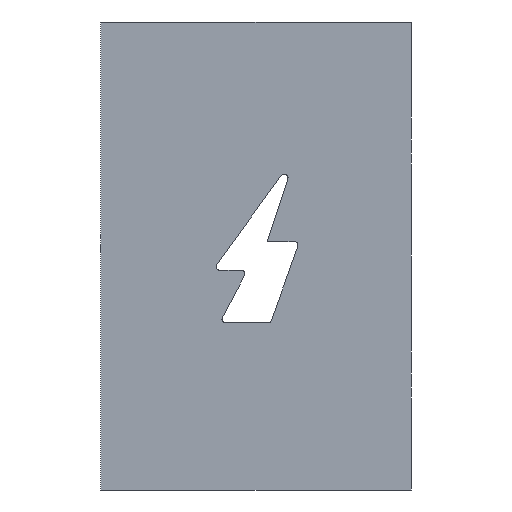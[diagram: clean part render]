
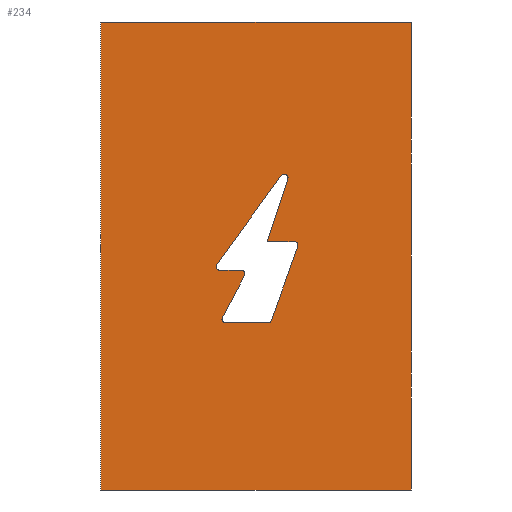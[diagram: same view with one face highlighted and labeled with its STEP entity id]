
A CAD part, left-side view. The second image highlights one B-rep face of the part: STEP entity #234.
In plain terms, the highlighted planar face has unit normal (-1, 0, 0).
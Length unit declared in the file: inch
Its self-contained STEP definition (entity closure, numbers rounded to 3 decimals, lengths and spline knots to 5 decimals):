
#1 = EDGE_CURVE ( 'NONE', #1059, #683, #455, .T. ) ;
#3 = FACE_OUTER_BOUND ( 'NONE', #768, .T. ) ;
#12 = LINE ( 'NONE', #979, #143 ) ;
#15 = ORIENTED_EDGE ( 'NONE', *, *, #155, .T. ) ;
#56 = CARTESIAN_POINT ( 'NONE',  ( -32.81156, 22.09023, 0. ) ) ;
#63 = ORIENTED_EDGE ( 'NONE', *, *, #978, .T. ) ;
#64 = CARTESIAN_POINT ( 'NONE',  ( -32.81156, 22.82408, -1.44263 ) ) ;
#66 = AXIS2_PLACEMENT_3D ( 'NONE', #1367, #337, #98 ) ;
#84 = VERTEX_POINT ( 'NONE', #546 ) ;
#95 = CARTESIAN_POINT ( 'NONE',  ( -32.81156, 23.2077, -1.63137 ) ) ;
#98 = DIRECTION ( 'NONE',  ( 0., 0., 1. ) ) ;
#108 = CARTESIAN_POINT ( 'NONE',  ( -32.81156, 23.00899, -1.95873 ) ) ;
#142 = ORIENTED_EDGE ( 'NONE', *, *, #364, .T. ) ;
#143 = VECTOR ( 'NONE', #1337, 39.37008 ) ;
#154 = DIRECTION ( 'NONE',  ( 0., 0., 1. ) ) ;
#155 = EDGE_CURVE ( 'NONE', #616, #1281, #599, .T. ) ;
#171 = CARTESIAN_POINT ( 'NONE',  ( -32.81156, 23.36777, -1.59168 ) ) ;
#172 = VECTOR ( 'NONE', #933, 39.37008 ) ;
#223 = EDGE_CURVE ( 'NONE', #914, #939, #372, .T. ) ;
#225 = LINE ( 'NONE', #56, #1334 ) ;
#231 = LINE ( 'NONE', #1555, #1095 ) ;
#234 = ADVANCED_FACE ( 'NONE', ( #3, #963 ), #1437, .T. ) ;
#262 = ORIENTED_EDGE ( 'NONE', *, *, #1, .T. ) ;
#265 = EDGE_CURVE ( 'NONE', #1413, #1532, #12, .T. ) ;
#294 = LINE ( 'NONE', #1514, #172 ) ;
#308 = ORIENTED_EDGE ( 'NONE', *, *, #579, .F. ) ;
#337 = DIRECTION ( 'NONE',  ( 1., 0., 0. ) ) ;
#350 = VERTEX_POINT ( 'NONE', #991 ) ;
#364 = EDGE_CURVE ( 'NONE', #1420, #1260, #524, .T. ) ;
#369 = CARTESIAN_POINT ( 'NONE',  ( -32.81156, 22.92487, -1.02438 ) ) ;
#371 = EDGE_CURVE ( 'NONE', #84, #1281, #1471, .T. ) ;
#372 = LINE ( 'NONE', #496, #1088 ) ;
#373 = CARTESIAN_POINT ( 'NONE',  ( -32.81156, 24.13045, -3.074 ) ) ;
#377 = DIRECTION ( 'NONE',  ( 0., -0.337, 0.941 ) ) ;
#380 = ORIENTED_EDGE ( 'NONE', *, *, #265, .F. ) ;
#384 = ORIENTED_EDGE ( 'NONE', *, *, #1112, .T. ) ;
#388 = VECTOR ( 'NONE', #1377, 39.37008 ) ;
#438 = AXIS2_PLACEMENT_3D ( 'NONE', #369, #1431, #700 ) ;
#448 = DIRECTION ( 'NONE',  ( 1., 0., 0. ) ) ;
#455 = CIRCLE ( 'NONE', #66, 0.025 ) ;
#468 = EDGE_CURVE ( 'NONE', #914, #1044, #225, .T. ) ;
#471 = CARTESIAN_POINT ( 'NONE',  ( -32.81156, 23.34754, -1.63137 ) ) ;
#476 = EDGE_CURVE ( 'NONE', #1059, #1413, #1527, .T. ) ;
#481 = DIRECTION ( 'NONE',  ( -1., 0., 0. ) ) ;
#496 = CARTESIAN_POINT ( 'NONE',  ( -32.81156, 0., 0. ) ) ;
#506 = DIRECTION ( 'NONE',  ( 0., 0., -1. ) ) ;
#510 = VECTOR ( 'NONE', #1341, 39.37008 ) ;
#514 = CARTESIAN_POINT ( 'NONE',  ( -32.81156, 22.8596, -1.44263 ) ) ;
#524 = CIRCLE ( 'NONE', #1012, 0.025 ) ;
#538 = EDGE_LOOP ( 'NONE', ( #1071, #1491, #661, #142, #1272, #1442, #380, #1277, #262, #308, #15, #1126, #63 ) ) ;
#539 = CARTESIAN_POINT ( 'NONE',  ( -32.81156, 23.03252, -1.9753 ) ) ;
#546 = CARTESIAN_POINT ( 'NONE',  ( -32.81156, 23.30867, -1.9753 ) ) ;
#549 = EDGE_CURVE ( 'NONE', #970, #931, #1558, .T. ) ;
#553 = CARTESIAN_POINT ( 'NONE',  ( -32.81156, 24.13045, 0. ) ) ;
#579 = EDGE_CURVE ( 'NONE', #616, #683, #231, .T. ) ;
#582 = CARTESIAN_POINT ( 'NONE',  ( -32.81156, 23.03589, -1.44263 ) ) ;
#596 = CARTESIAN_POINT ( 'NONE',  ( -32.81156, 22.83606, -1.47606 ) ) ;
#599 = CIRCLE ( 'NONE', #1477, 0.025 ) ;
#616 = VERTEX_POINT ( 'NONE', #108 ) ;
#635 = CARTESIAN_POINT ( 'NONE',  ( -32.81156, 24.13045, 0.25 ) ) ;
#661 = ORIENTED_EDGE ( 'NONE', *, *, #903, .F. ) ;
#683 = VERTEX_POINT ( 'NONE', #596 ) ;
#700 = DIRECTION ( 'NONE',  ( 0., 0., 1. ) ) ;
#704 = AXIS2_PLACEMENT_3D ( 'NONE', #851, #481, #846 ) ;
#717 = DIRECTION ( 'NONE',  ( 1., 0., 0. ) ) ;
#729 = AXIS2_PLACEMENT_3D ( 'NONE', #1258, #448, #802 ) ;
#730 = VECTOR ( 'NONE', #1476, 39.37008 ) ;
#744 = DIRECTION ( 'NONE',  ( 1., 0., 0. ) ) ;
#768 = EDGE_LOOP ( 'NONE', ( #1087, #1269, #384, #1167 ) ) ;
#781 = CARTESIAN_POINT ( 'NONE',  ( -32.81156, 23.18567, -1.66819 ) ) ;
#789 = VECTOR ( 'NONE', #506, 39.37008 ) ;
#802 = DIRECTION ( 'NONE',  ( 0., 0., 1. ) ) ;
#805 = DIRECTION ( 'NONE',  ( 0., 1., 0. ) ) ;
#846 = DIRECTION ( 'NONE',  ( 0., 0., 1. ) ) ;
#851 = CARTESIAN_POINT ( 'NONE',  ( -32.81156, 0., 0. ) ) ;
#855 = CARTESIAN_POINT ( 'NONE',  ( -32.81156, 23.16591, -1.63137 ) ) ;
#861 = DIRECTION ( 'NONE',  ( 0., 1., 0. ) ) ;
#863 = LINE ( 'NONE', #1353, #510 ) ;
#878 = LINE ( 'NONE', #855, #1342 ) ;
#883 = AXIS2_PLACEMENT_3D ( 'NONE', #1035, #915, #1519 ) ;
#884 = CARTESIAN_POINT ( 'NONE',  ( -32.81156, 22.90112, -1.03218 ) ) ;
#903 = EDGE_CURVE ( 'NONE', #1420, #931, #294, .T. ) ;
#914 = VERTEX_POINT ( 'NONE', #1033 ) ;
#915 = DIRECTION ( 'NONE',  ( -1., 0., 0. ) ) ;
#931 = VERTEX_POINT ( 'NONE', #95 ) ;
#933 = DIRECTION ( 'NONE',  ( 0., -1., 0. ) ) ;
#939 = VERTEX_POINT ( 'NONE', #553 ) ;
#940 = VERTEX_POINT ( 'NONE', #1064 ) ;
#963 = FACE_BOUND ( 'NONE', #538, .T. ) ;
#970 = VERTEX_POINT ( 'NONE', #781 ) ;
#978 = EDGE_CURVE ( 'NONE', #84, #940, #1254, .T. ) ;
#979 = CARTESIAN_POINT ( 'NONE',  ( -32.81156, 23.03589, -1.44263 ) ) ;
#987 = DIRECTION ( 'NONE',  ( 0., 0., 1. ) ) ;
#991 = CARTESIAN_POINT ( 'NONE',  ( -32.81156, 22.9451, -1.00969 ) ) ;
#998 = CARTESIAN_POINT ( 'NONE',  ( -32.81156, 23.34754, -1.60637 ) ) ;
#1002 = LINE ( 'NONE', #635, #789 ) ;
#1004 = CARTESIAN_POINT ( 'NONE',  ( -32.81156, 23.35046, -1.9753 ) ) ;
#1012 = AXIS2_PLACEMENT_3D ( 'NONE', #998, #744, #154 ) ;
#1016 = LINE ( 'NONE', #1130, #388 ) ;
#1033 = CARTESIAN_POINT ( 'NONE',  ( -32.81156, 22.09023, 0. ) ) ;
#1035 = CARTESIAN_POINT ( 'NONE',  ( -32.81156, 23.2077, -1.65637 ) ) ;
#1044 = VERTEX_POINT ( 'NONE', #1453 ) ;
#1058 = DIRECTION ( 'NONE',  ( 0., 0., -1. ) ) ;
#1059 = VERTEX_POINT ( 'NONE', #514 ) ;
#1064 = CARTESIAN_POINT ( 'NONE',  ( -32.81156, 23.3307, -1.93848 ) ) ;
#1071 = ORIENTED_EDGE ( 'NONE', *, *, #1078, .F. ) ;
#1078 = EDGE_CURVE ( 'NONE', #970, #940, #878, .T. ) ;
#1087 = ORIENTED_EDGE ( 'NONE', *, *, #468, .F. ) ;
#1088 = VECTOR ( 'NONE', #861, 39.37008 ) ;
#1094 = EDGE_CURVE ( 'NONE', #1490, #1044, #863, .T. ) ;
#1095 = VECTOR ( 'NONE', #377, 39.37008 ) ;
#1112 = EDGE_CURVE ( 'NONE', #939, #1490, #1002, .T. ) ;
#1126 = ORIENTED_EDGE ( 'NONE', *, *, #371, .F. ) ;
#1130 = CARTESIAN_POINT ( 'NONE',  ( -32.81156, 22.85135, -0.8806 ) ) ;
#1167 = ORIENTED_EDGE ( 'NONE', *, *, #1094, .T. ) ;
#1243 = DIRECTION ( 'NONE',  ( 0., 0.473, -0.881 ) ) ;
#1254 = CIRCLE ( 'NONE', #729, 0.025 ) ;
#1258 = CARTESIAN_POINT ( 'NONE',  ( -32.81156, 23.30867, -1.9503 ) ) ;
#1260 = VERTEX_POINT ( 'NONE', #171 ) ;
#1265 = EDGE_CURVE ( 'NONE', #350, #1260, #1016, .T. ) ;
#1269 = ORIENTED_EDGE ( 'NONE', *, *, #223, .T. ) ;
#1272 = ORIENTED_EDGE ( 'NONE', *, *, #1265, .F. ) ;
#1277 = ORIENTED_EDGE ( 'NONE', *, *, #476, .F. ) ;
#1281 = VERTEX_POINT ( 'NONE', #539 ) ;
#1290 = VECTOR ( 'NONE', #805, 39.37008 ) ;
#1311 = CARTESIAN_POINT ( 'NONE',  ( -32.81156, 23.03252, -1.9503 ) ) ;
#1334 = VECTOR ( 'NONE', #1058, 39.37008 ) ;
#1337 = DIRECTION ( 'NONE',  ( 0., -0.312, 0.95 ) ) ;
#1341 = DIRECTION ( 'NONE',  ( 0., -1., 0. ) ) ;
#1342 = VECTOR ( 'NONE', #1243, 39.37008 ) ;
#1353 = CARTESIAN_POINT ( 'NONE',  ( -32.81156, 0., -3.074 ) ) ;
#1367 = CARTESIAN_POINT ( 'NONE',  ( -32.81156, 22.8596, -1.46763 ) ) ;
#1376 = EDGE_CURVE ( 'NONE', #350, #1532, #1467, .T. ) ;
#1377 = DIRECTION ( 'NONE',  ( 0., 0.588, -0.809 ) ) ;
#1413 = VERTEX_POINT ( 'NONE', #582 ) ;
#1420 = VERTEX_POINT ( 'NONE', #471 ) ;
#1431 = DIRECTION ( 'NONE',  ( 1., 0., 0. ) ) ;
#1437 = PLANE ( 'NONE',  #704 ) ;
#1442 = ORIENTED_EDGE ( 'NONE', *, *, #1376, .T. ) ;
#1453 = CARTESIAN_POINT ( 'NONE',  ( -32.81156, 22.09023, -3.074 ) ) ;
#1467 = CIRCLE ( 'NONE', #438, 0.025 ) ;
#1471 = LINE ( 'NONE', #1004, #730 ) ;
#1476 = DIRECTION ( 'NONE',  ( 0., -1., 0. ) ) ;
#1477 = AXIS2_PLACEMENT_3D ( 'NONE', #1311, #717, #987 ) ;
#1490 = VERTEX_POINT ( 'NONE', #373 ) ;
#1491 = ORIENTED_EDGE ( 'NONE', *, *, #549, .T. ) ;
#1514 = CARTESIAN_POINT ( 'NONE',  ( -32.81156, 23.3966, -1.63137 ) ) ;
#1519 = DIRECTION ( 'NONE',  ( 0., 0., 1. ) ) ;
#1527 = LINE ( 'NONE', #64, #1290 ) ;
#1532 = VERTEX_POINT ( 'NONE', #884 ) ;
#1555 = CARTESIAN_POINT ( 'NONE',  ( -32.81156, 23.01492, -1.9753 ) ) ;
#1558 = CIRCLE ( 'NONE', #883, 0.025 ) ;
